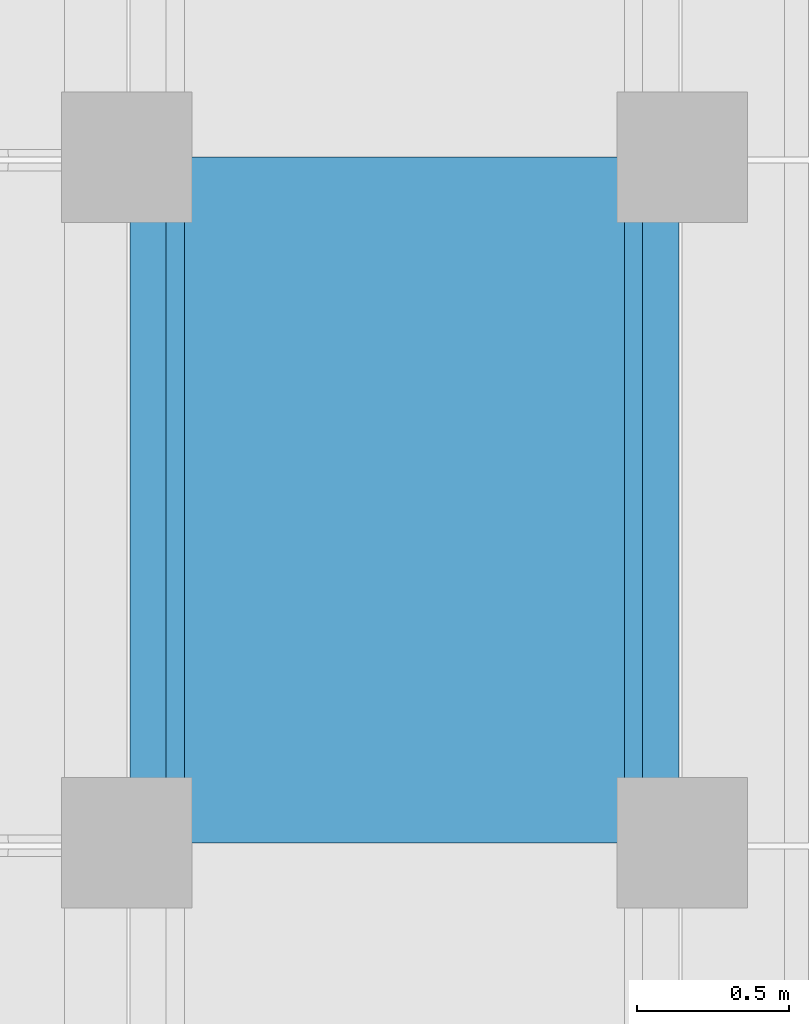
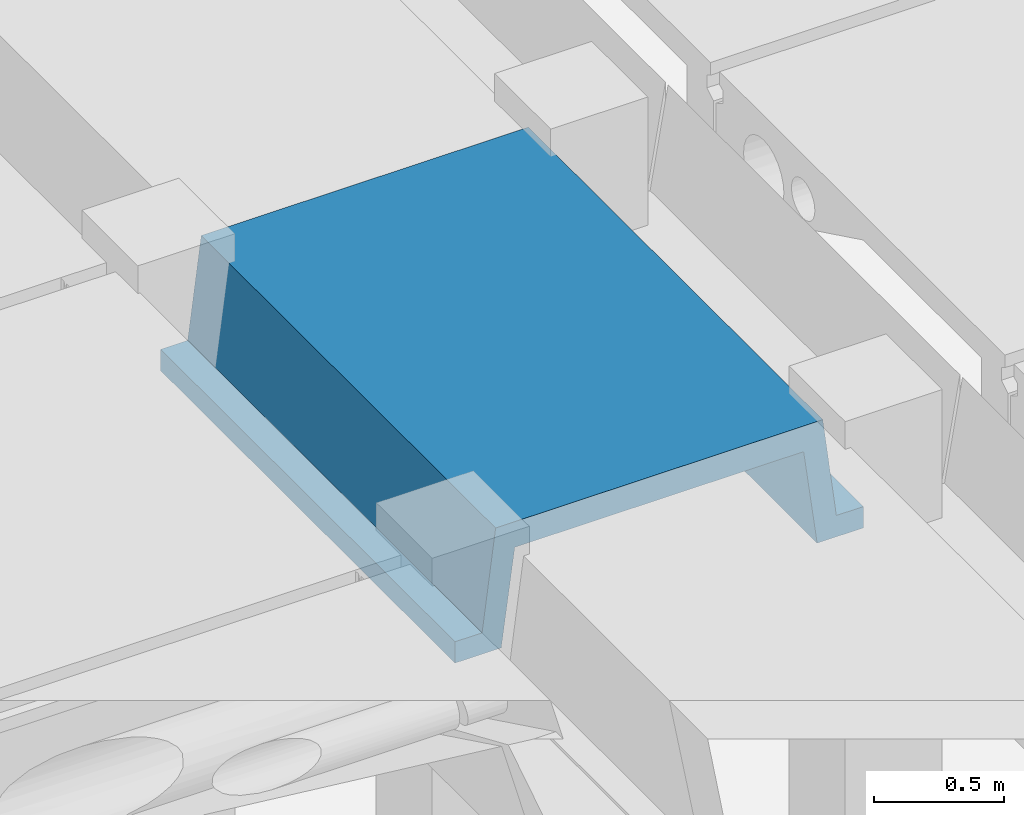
# One storey, part 18 of 25: 1 beam.
"""IFC2X3 building model written with IfcOpenShell, lengths in millimetres."""

from ifc_helpers import new_model, entity, si_unit, converted_unit, derived_unit, direction, frame, origin, place, context, subcontext, project, spatial, polyline, outline, extrude, material, type_object, element, save


model = new_model("IFC2X3")

# Units and contexts
model_context = context("Model", 3, precision=0.01, world=origin(), true_north=direction((6.12303176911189e-17, 1.0)))
body_context = subcontext(model_context, "Body", "Model", "MODEL_VIEW")
ifc_project = project(units=[si_unit("LENGTHUNIT", "METRE", prefix="MILLI"), si_unit("AREAUNIT", "SQUARE_METRE"), si_unit("VOLUMEUNIT", "CUBIC_METRE"), converted_unit("PLANEANGLEUNIT", "DEGREE", entity("IfcRatioMeasure", 0.0174532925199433), si_unit("PLANEANGLEUNIT", "RADIAN"), dimensions=[0, 0, 0, 0, 0, 0, 0]), si_unit("MASSUNIT", "GRAM", prefix="KILO"), derived_unit("MASSDENSITYUNIT", [(si_unit("MASSUNIT", "GRAM", prefix="KILO"), 1), (si_unit("LENGTHUNIT", "METRE"), -3)]), derived_unit("MOMENTOFINERTIAUNIT", [(si_unit("LENGTHUNIT", "METRE"), 4)]), si_unit("TIMEUNIT", "SECOND"), si_unit("FREQUENCYUNIT", "HERTZ"), si_unit("THERMODYNAMICTEMPERATUREUNIT", "DEGREE_CELSIUS"), derived_unit("THERMALTRANSMITTANCEUNIT", [(si_unit("MASSUNIT", "GRAM", prefix="KILO"), 1), (si_unit("THERMODYNAMICTEMPERATUREUNIT", "KELVIN"), -1), (si_unit("TIMEUNIT", "SECOND"), -3)]), derived_unit("VOLUMETRICFLOWRATEUNIT", [(si_unit("LENGTHUNIT", "METRE"), 3), (si_unit("TIMEUNIT", "SECOND"), -1)]), si_unit("ELECTRICCURRENTUNIT", "AMPERE"), si_unit("ELECTRICVOLTAGEUNIT", "VOLT"), si_unit("POWERUNIT", "WATT"), si_unit("FORCEUNIT", "NEWTON", prefix="KILO"), si_unit("ILLUMINANCEUNIT", "LUX"), si_unit("LUMINOUSFLUXUNIT", "LUMEN"), si_unit("LUMINOUSINTENSITYUNIT", "CANDELA"), derived_unit("USERDEFINED", [(si_unit("MASSUNIT", "GRAM", prefix="KILO"), -1), (si_unit("LENGTHUNIT", "METRE"), -2), (si_unit("TIMEUNIT", "SECOND"), 3), (si_unit("LUMINOUSFLUXUNIT", "LUMEN"), 1)]), derived_unit("LINEARVELOCITYUNIT", [(si_unit("LENGTHUNIT", "METRE"), 1), (si_unit("TIMEUNIT", "SECOND"), -1)]), si_unit("PRESSUREUNIT", "PASCAL"), derived_unit("USERDEFINED", [(si_unit("LENGTHUNIT", "METRE"), -2), (si_unit("MASSUNIT", "GRAM", prefix="KILO"), 1), (si_unit("TIMEUNIT", "SECOND"), -2)]), derived_unit("LINEARFORCEUNIT", [(si_unit("MASSUNIT", "GRAM", prefix="KILO"), 1), (si_unit("LENGTHUNIT", "METRE"), 1), (si_unit("TIMEUNIT", "SECOND"), -2), (si_unit("LENGTHUNIT", "METRE"), -1)]), derived_unit("PLANARFORCEUNIT", [(si_unit("MASSUNIT", "GRAM", prefix="KILO"), 1), (si_unit("LENGTHUNIT", "METRE"), 1), (si_unit("TIMEUNIT", "SECOND"), -2), (si_unit("LENGTHUNIT", "METRE"), -2)])], contexts=[model_context])

# Site, building, storey
site_placement = place(None, frame((10627.5135316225, 21939.0796949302, 0.0)))
site = spatial("IfcSite", under=ifc_project, at=site_placement, Name="Default", CompositionType="ELEMENT")
building_placement = place(site_placement, origin())
building = spatial("IfcBuilding", under=site, at=building_placement, CompositionType="ELEMENT")
storey_placement = place(building_placement, origin())
storey = spatial("IfcBuildingStorey", under=building, at=storey_placement, Name="RDC", CompositionType="ELEMENT", Elevation=0.0)

# Beam
ifc_material = material(Name="Concrete, Precast Smooth, Light Grey")
beam_type = type_object("IfcBeamType", Name="Poutre petite:Poutre petite", PredefinedType="NOTDEFINED")
beam_placement = place(storey_placement, frame((52487.4864683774, 2920.92030506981, 3530.0), z_axis=(0.0, 0.0, 1.0), x_axis=(0.0, 1.0, 0.0)))
element("IfcBeam", 1, at=beam_placement, inside=storey, type_object=beam_type, material=ifc_material, Name="Poutre petite:Poutre petite", ObjectType="Poutre petite:Poutre petite", context=body_context, shape_type="SweptSolid", body=[
    extrude(outline(polyline([(103.333217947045, -905.014058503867), (203.333564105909, -905.014058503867), (203.333564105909, -700.0135432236), (-246.666782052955, -640.013497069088), (-246.666782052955, 640.013684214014), (203.333564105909, 700.013730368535), (203.333564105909, 905.013684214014), (103.333217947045, 905.013684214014), (103.333217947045, 785.013684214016), (-366.666782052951, 725.01368421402), (-366.666782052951, -725.013497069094), (103.333217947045, -785.013497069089), (103.333217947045, -905.014058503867)])), frame((0.0, 0.000187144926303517, -366.666782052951), z_axis=(1.0, 0.0, 0.0), x_axis=(0.0, 0.0, -1.0)), (0.0, 0.0, 1.0), 2260.0),
])

save(model, "model.ifc")
